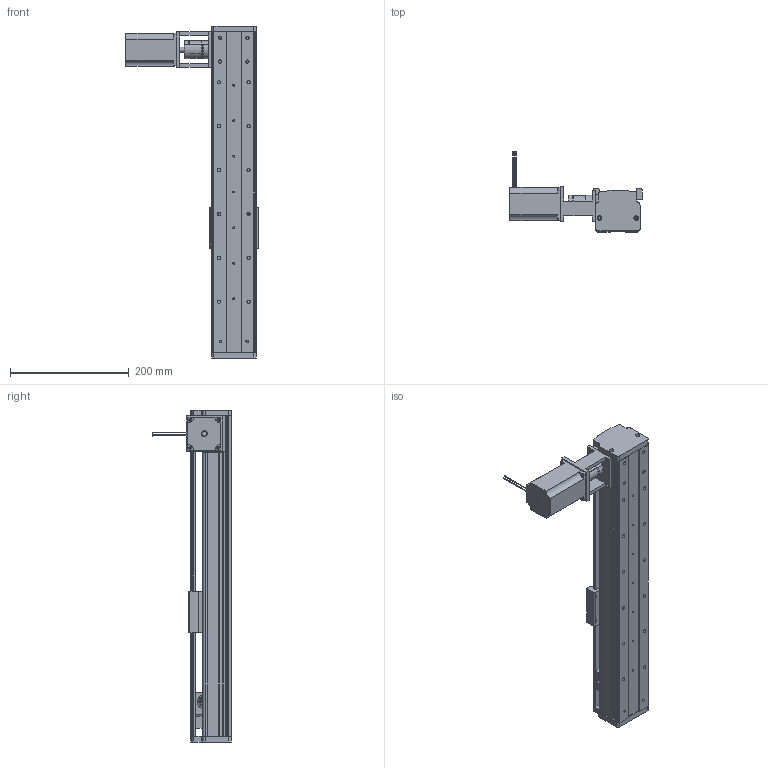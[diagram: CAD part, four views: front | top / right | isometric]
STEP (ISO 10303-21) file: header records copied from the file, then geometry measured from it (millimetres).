
FILE_DESCRIPTION (( 'STEP AP214' ), '1' );
FILE_NAME ('CF75-D-300-FWL.STEP', '2016-07-18T05:18:59', ( 'Sky123.Org' ), ( 'Sky123.Org' ), 'SwSTEP 2.0', 'SolidWorks 2015', '' );
FILE_SCHEMA (( 'AUTOMOTIVE_DESIGN' ));
Length unit declared in the file: millimetre
Products named in the file (17): CF75郔陔翋雄釱; CF75铝型材 - 电机左侧－P300; CF75-D-300-FWL; 30-42薊粣ん; 75肮祭湍植雄粣2; 57祭輛萇儂; 翋雄粣傍杶; deep groove ball bearings gb-1_Rolling bearings 628 GB 276-94; 75肮祭湍翋雄粣; 30-42薊粣ん杶; 75侧板（2016.03.24改进）; 5M 15喘詢27; 75裔啣-p300; R2-EGR15-P300; EGW15CA賑輸; 75賑輸; 植雄耜
Assembly tree (21 placements, depth 2):
  CF75-D-300-FWL
    CF75铝型材 - 电机左侧－P300
    CF75郔陔翋雄釱
    植雄耜
    75賑輸
    EGW15CA賑輸
    R2-EGR15-P300
    75裔啣-p300
    5M 15喘詢27  x2
    75侧板（2016.03.24改进）  x2
    30-42薊粣ん杶
    75肮祭湍翋雄粣
    deep groove ball bearings gb-1_Rolling bearings 628 GB 276-94  x4
    翋雄粣傍杶
    57祭輛萇儂
    75肮祭湍植雄粣2
    30-42薊粣ん
Bounding box: 223 x 134.43 x 560 mm (x, y, z)
Volume: 1468472.9 mm3; surface area: 516135 mm2
Topology: 22 solids, 22 shells, 1200 faces, 3890 edges, 2585 vertices
Faces by surface type: cylinder 491, plane 424, torus 176, sphere 88, cone 21
Entity records: 31574 total; most frequent: CARTESIAN_POINT 6456, DIRECTION 5012, ORIENTED_EDGE 4936, EDGE_CURVE 2468, AXIS2_PLACEMENT_3D 1888, VERTEX_POINT 1628, LINE 1236, VECTOR 1236
